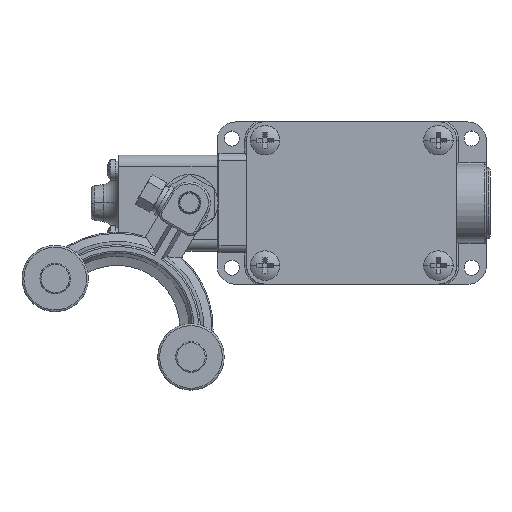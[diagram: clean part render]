
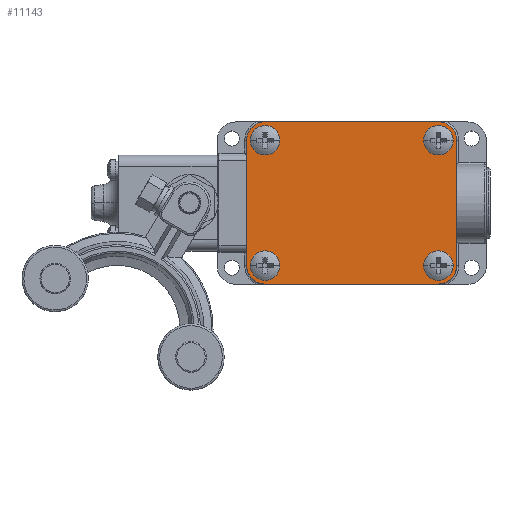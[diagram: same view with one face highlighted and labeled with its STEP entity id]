
A CAD part, top view. The second image highlights one B-rep face of the part: STEP entity #11143.
In plain terms, the highlighted planar face has unit normal (0, 0, 1).
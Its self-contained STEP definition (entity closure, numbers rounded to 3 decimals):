
#768=DIRECTION('',(-1.,0.,0.));
#769=VECTOR('',#768,47.);
#770=CARTESIAN_POINT('',(60.5,44.5,1.8));
#771=LINE('',#770,#769);
#797=DIRECTION('',(0.,1.,0.));
#798=VECTOR('',#797,34.);
#799=CARTESIAN_POINT('',(65.5,5.5,1.8));
#800=LINE('',#799,#798);
#831=DIRECTION('',(1.,0.,0.));
#832=VECTOR('',#831,47.);
#833=CARTESIAN_POINT('',(13.5,0.5,1.8));
#834=LINE('',#833,#832);
#851=CARTESIAN_POINT('',(13.5,5.5,1.8));
#852=DIRECTION('',(0.,0.,-1.));
#853=DIRECTION('',(-1.,0.,0.));
#854=AXIS2_PLACEMENT_3D('',#851,#852,#853);
#856=CARTESIAN_POINT('',(13.5,5.5,1.8));
#857=DIRECTION('',(0.,0.,-1.));
#858=DIRECTION('',(1.,0.,0.));
#859=AXIS2_PLACEMENT_3D('',#856,#857,#858);
#861=CARTESIAN_POINT('',(13.5,39.5,1.8));
#862=DIRECTION('',(0.,0.,-1.));
#863=DIRECTION('',(-1.,0.,0.));
#864=AXIS2_PLACEMENT_3D('',#861,#862,#863);
#866=CARTESIAN_POINT('',(13.5,39.5,1.8));
#867=DIRECTION('',(0.,0.,-1.));
#868=DIRECTION('',(1.,0.,0.));
#869=AXIS2_PLACEMENT_3D('',#866,#867,#868);
#871=CARTESIAN_POINT('',(60.5,5.5,1.8));
#872=DIRECTION('',(0.,0.,-1.));
#873=DIRECTION('',(-1.,0.,0.));
#874=AXIS2_PLACEMENT_3D('',#871,#872,#873);
#876=CARTESIAN_POINT('',(60.5,5.5,1.8));
#877=DIRECTION('',(0.,0.,-1.));
#878=DIRECTION('',(1.,0.,0.));
#879=AXIS2_PLACEMENT_3D('',#876,#877,#878);
#881=CARTESIAN_POINT('',(60.5,39.5,1.8));
#882=DIRECTION('',(0.,0.,-1.));
#883=DIRECTION('',(-1.,0.,0.));
#884=AXIS2_PLACEMENT_3D('',#881,#882,#883);
#886=CARTESIAN_POINT('',(60.5,39.5,1.8));
#887=DIRECTION('',(0.,0.,-1.));
#888=DIRECTION('',(1.,0.,0.));
#889=AXIS2_PLACEMENT_3D('',#886,#887,#888);
#891=CARTESIAN_POINT('',(60.5,5.5,1.8));
#892=DIRECTION('',(0.,0.,1.));
#893=DIRECTION('',(0.,-1.,0.));
#894=AXIS2_PLACEMENT_3D('',#891,#892,#893);
#896=CARTESIAN_POINT('',(13.5,5.5,1.8));
#897=DIRECTION('',(0.,0.,1.));
#898=DIRECTION('',(-1.,0.,0.));
#899=AXIS2_PLACEMENT_3D('',#896,#897,#898);
#901=CARTESIAN_POINT('',(13.5,39.5,1.8));
#902=DIRECTION('',(0.,0.,1.));
#903=DIRECTION('',(0.,1.,0.));
#904=AXIS2_PLACEMENT_3D('',#901,#902,#903);
#906=CARTESIAN_POINT('',(60.5,39.5,1.8));
#907=DIRECTION('',(0.,0.,1.));
#908=DIRECTION('',(1.,0.,0.));
#909=AXIS2_PLACEMENT_3D('',#906,#907,#908);
#1696=DIRECTION('',(0.,-1.,0.));
#1697=VECTOR('',#1696,34.);
#1698=CARTESIAN_POINT('',(8.5,39.5,1.8));
#1699=LINE('',#1698,#1697);
#9546=CARTESIAN_POINT('',(9.5,5.5,1.8));
#9547=CARTESIAN_POINT('',(17.5,5.5,1.8));
#9548=VERTEX_POINT('',#9546);
#9549=VERTEX_POINT('',#9547);
#9582=CARTESIAN_POINT('',(9.5,39.5,1.8));
#9583=CARTESIAN_POINT('',(17.5,39.5,1.8));
#9584=VERTEX_POINT('',#9582);
#9585=VERTEX_POINT('',#9583);
#9618=CARTESIAN_POINT('',(56.5,5.5,1.8));
#9619=CARTESIAN_POINT('',(64.5,5.5,1.8));
#9620=VERTEX_POINT('',#9618);
#9621=VERTEX_POINT('',#9619);
#9654=CARTESIAN_POINT('',(56.5,39.5,1.8));
#9655=CARTESIAN_POINT('',(64.5,39.5,1.8));
#9656=VERTEX_POINT('',#9654);
#9657=VERTEX_POINT('',#9655);
#9718=CARTESIAN_POINT('',(8.5,5.5,1.8));
#9719=CARTESIAN_POINT('',(13.5,0.5,1.8));
#9720=VERTEX_POINT('',#9718);
#9721=VERTEX_POINT('',#9719);
#9722=CARTESIAN_POINT('',(60.5,0.5,1.8));
#9723=CARTESIAN_POINT('',(65.5,5.5,1.8));
#9724=VERTEX_POINT('',#9722);
#9725=VERTEX_POINT('',#9723);
#9726=CARTESIAN_POINT('',(65.5,39.5,1.8));
#9727=CARTESIAN_POINT('',(60.5,44.5,1.8));
#9728=VERTEX_POINT('',#9726);
#9729=VERTEX_POINT('',#9727);
#9730=CARTESIAN_POINT('',(13.5,44.5,1.8));
#9731=CARTESIAN_POINT('',(8.5,39.5,1.8));
#9732=VERTEX_POINT('',#9730);
#9733=VERTEX_POINT('',#9731);
#11102=CARTESIAN_POINT('',(37.,22.5,1.8));
#11103=DIRECTION('',(0.,0.,-1.));
#11104=DIRECTION('',(0.,-1.,0.));
#11105=AXIS2_PLACEMENT_3D('',#11102,#11103,#11104);
#11106=PLANE('',#11105);
#11107=ORIENTED_EDGE('',*,*,#10916,.F.);
#11108=ORIENTED_EDGE('',*,*,#10939,.F.);
#11109=ORIENTED_EDGE('',*,*,#10952,.F.);
#11111=ORIENTED_EDGE('',*,*,#11110,.F.);
#11113=ORIENTED_EDGE('',*,*,#11112,.F.);
#11114=ORIENTED_EDGE('',*,*,#10861,.F.);
#11115=ORIENTED_EDGE('',*,*,#10876,.F.);
#11116=ORIENTED_EDGE('',*,*,#10901,.F.);
#11117=EDGE_LOOP('',(#11107,#11108,#11109,#11111,#11113,#11114,#11115,#11116));
#11118=FACE_OUTER_BOUND('',#11117,.F.);
#11120=ORIENTED_EDGE('',*,*,#11119,.F.);
#11122=ORIENTED_EDGE('',*,*,#11121,.F.);
#11123=EDGE_LOOP('',(#11120,#11122));
#11124=FACE_BOUND('',#11123,.F.);
#11126=ORIENTED_EDGE('',*,*,#11125,.F.);
#11128=ORIENTED_EDGE('',*,*,#11127,.F.);
#11129=EDGE_LOOP('',(#11126,#11128));
#11130=FACE_BOUND('',#11129,.F.);
#11132=ORIENTED_EDGE('',*,*,#11131,.F.);
#11134=ORIENTED_EDGE('',*,*,#11133,.F.);
#11135=EDGE_LOOP('',(#11132,#11134));
#11136=FACE_BOUND('',#11135,.F.);
#11138=ORIENTED_EDGE('',*,*,#11137,.F.);
#11140=ORIENTED_EDGE('',*,*,#11139,.F.);
#11141=EDGE_LOOP('',(#11138,#11140));
#11142=FACE_BOUND('',#11141,.F.);
#11143=ADVANCED_FACE('',(#11118,#11124,#11130,#11136,#11142),#11106,.F.);
#855=CIRCLE('',#854,4.);
#860=CIRCLE('',#859,4.);
#865=CIRCLE('',#864,4.);
#870=CIRCLE('',#869,4.);
#875=CIRCLE('',#874,4.);
#880=CIRCLE('',#879,4.);
#885=CIRCLE('',#884,4.);
#890=CIRCLE('',#889,4.);
#895=CIRCLE('',#894,5.);
#900=CIRCLE('',#899,5.);
#905=CIRCLE('',#904,5.);
#910=CIRCLE('',#909,5.);
#10861=EDGE_CURVE('',#9732,#9733,#905,.T.);
#10876=EDGE_CURVE('',#9729,#9732,#771,.T.);
#10901=EDGE_CURVE('',#9728,#9729,#910,.T.);
#10916=EDGE_CURVE('',#9725,#9728,#800,.T.);
#10939=EDGE_CURVE('',#9724,#9725,#895,.T.);
#10952=EDGE_CURVE('',#9721,#9724,#834,.T.);
#11110=EDGE_CURVE('',#9720,#9721,#900,.T.);
#11112=EDGE_CURVE('',#9733,#9720,#1699,.T.);
#11119=EDGE_CURVE('',#9548,#9549,#855,.T.);
#11121=EDGE_CURVE('',#9549,#9548,#860,.T.);
#11125=EDGE_CURVE('',#9584,#9585,#865,.T.);
#11127=EDGE_CURVE('',#9585,#9584,#870,.T.);
#11131=EDGE_CURVE('',#9620,#9621,#875,.T.);
#11133=EDGE_CURVE('',#9621,#9620,#880,.T.);
#11137=EDGE_CURVE('',#9656,#9657,#885,.T.);
#11139=EDGE_CURVE('',#9657,#9656,#890,.T.);
